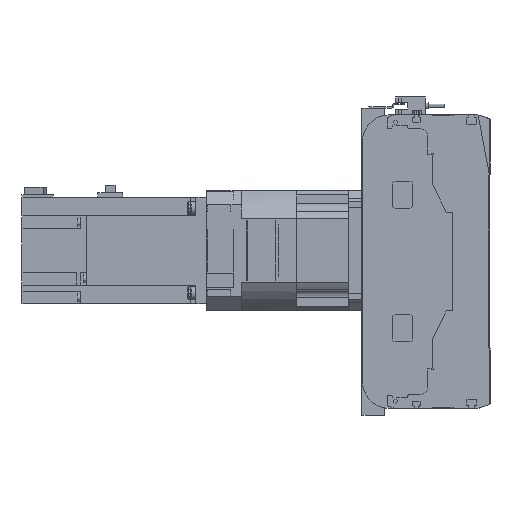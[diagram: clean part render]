
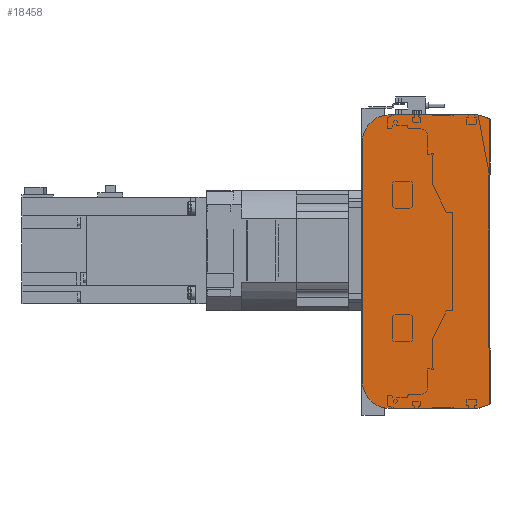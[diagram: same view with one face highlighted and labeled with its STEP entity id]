
A CAD part, left-side view. The second image highlights one B-rep face of the part: STEP entity #18458.
In plain terms, the highlighted planar face has unit normal (-1, 0, 0).
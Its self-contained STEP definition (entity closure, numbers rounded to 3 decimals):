
#1052=CIRCLE('',#20119,20.);
#1053=CIRCLE('',#20122,20.);
#4610=ORIENTED_EDGE('',*,*,#8008,.F.);
#4611=ORIENTED_EDGE('',*,*,#8050,.F.);
#4612=ORIENTED_EDGE('',*,*,#8048,.F.);
#4613=ORIENTED_EDGE('',*,*,#8046,.F.);
#4614=ORIENTED_EDGE('',*,*,#8035,.F.);
#4615=ORIENTED_EDGE('',*,*,#8026,.F.);
#4616=ORIENTED_EDGE('',*,*,#8022,.F.);
#4617=ORIENTED_EDGE('',*,*,#8019,.F.);
#8008=EDGE_CURVE('',#10051,#10052,#11707,.T.);
#8019=EDGE_CURVE('',#10052,#10059,#11718,.T.);
#8022=EDGE_CURVE('',#10059,#10061,#11721,.T.);
#8026=EDGE_CURVE('',#10061,#10062,#11725,.T.);
#8035=EDGE_CURVE('',#10062,#10068,#11734,.T.);
#8046=EDGE_CURVE('',#10068,#10075,#1052,.T.);
#8048=EDGE_CURVE('',#10075,#10076,#11746,.T.);
#8050=EDGE_CURVE('',#10076,#10051,#1053,.T.);
#10051=VERTEX_POINT('',#30485);
#10052=VERTEX_POINT('',#30487);
#10059=VERTEX_POINT('',#30506);
#10061=VERTEX_POINT('',#30512);
#10062=VERTEX_POINT('',#30518);
#10068=VERTEX_POINT('',#30534);
#10075=VERTEX_POINT('',#30553);
#10076=VERTEX_POINT('',#30557);
#11707=LINE('',#30486,#13286);
#11718=LINE('',#30505,#13297);
#11721=LINE('',#30511,#13300);
#11725=LINE('',#30517,#13304);
#11734=LINE('',#30533,#13313);
#11746=LINE('',#30556,#13325);
#13286=VECTOR('',#24378,1000.);
#13297=VECTOR('',#24391,1000.);
#13300=VECTOR('',#24396,1000.);
#13304=VECTOR('',#24402,1000.);
#13313=VECTOR('',#24413,1000.);
#13325=VECTOR('',#24431,1000.);
#14710=EDGE_LOOP('',(#4610,#4611,#4612,#4613,#4614,#4615,#4616,#4617));
#16418=FACE_BOUND('',#14710,.T.);
#17565=PLANE('',#20123);
#18458=ADVANCED_FACE('',(#16418),#17565,.F.);
#20119=AXIS2_PLACEMENT_3D('',#30552,#24426,#24427);
#20122=AXIS2_PLACEMENT_3D('',#30560,#24435,#24436);
#20123=AXIS2_PLACEMENT_3D('',#30561,#24437,#24438);
#24378=DIRECTION('',(0.,-1.,0.));
#24391=DIRECTION('',(0.,-0.945,-0.328));
#24396=DIRECTION('',(0.,0.,-1.));
#24402=DIRECTION('',(0.,0.945,-0.328));
#24413=DIRECTION('',(0.,1.,0.));
#24426=DIRECTION('',(1.,0.,0.));
#24427=DIRECTION('',(0.,0.,-1.));
#24431=DIRECTION('',(0.,0.,1.));
#24435=DIRECTION('',(1.,0.,0.));
#24436=DIRECTION('',(0.,0.,-1.));
#24437=DIRECTION('',(1.,0.,0.));
#24438=DIRECTION('',(0.,0.,-1.));
#30485=CARTESIAN_POINT('',(0.,75.5,110.));
#30486=CARTESIAN_POINT('',(0.,75.5,110.));
#30487=CARTESIAN_POINT('',(0.,9.,110.));
#30505=CARTESIAN_POINT('',(0.,9.,110.));
#30506=CARTESIAN_POINT('',(0.,0.5,107.05));
#30511=CARTESIAN_POINT('',(0.,0.5,107.05));
#30512=CARTESIAN_POINT('',(0.,0.5,-107.05));
#30517=CARTESIAN_POINT('',(0.,0.5,-107.05));
#30518=CARTESIAN_POINT('',(0.,9.,-110.));
#30533=CARTESIAN_POINT('',(0.,9.,-110.));
#30534=CARTESIAN_POINT('',(0.,75.5,-110.));
#30552=CARTESIAN_POINT('',(0.,75.5,-90.));
#30553=CARTESIAN_POINT('',(0.,95.5,-90.));
#30556=CARTESIAN_POINT('',(0.,95.5,-90.));
#30557=CARTESIAN_POINT('',(0.,95.5,90.));
#30560=CARTESIAN_POINT('',(0.,75.5,90.));
#30561=CARTESIAN_POINT('',(0.,75.5,-90.));
